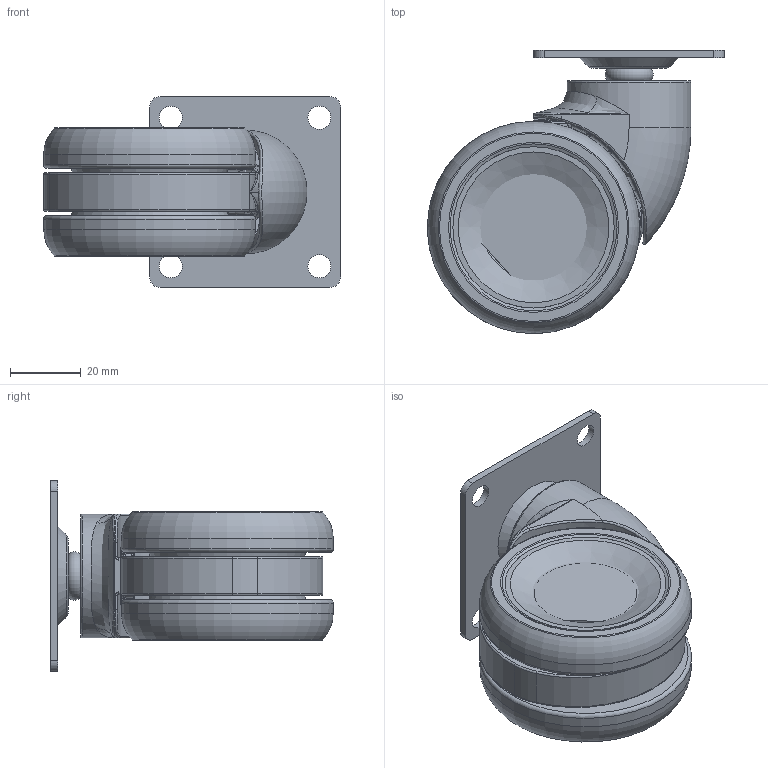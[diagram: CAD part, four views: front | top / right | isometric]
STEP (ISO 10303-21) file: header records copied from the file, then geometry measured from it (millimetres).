
FILE_DESCRIPTION (( 'STEP AP203' ), '1' );
FILE_NAME ('K09U35(プレート).STEP', '2025-04-11T02:17:39', ( '' ), ( '' ), 'SwSTEP 2.0', 'SolidWorks 2025', '' );
FILE_SCHEMA (( 'CONFIG_CONTROL_DESIGN' ));
Length unit declared in the file: millimetre
Products named in the file (5): プレート縦軸; 35カバー_2; TPU車輪; K09U35(プレート); 本体
Assembly tree (5 placements, depth 2):
  K09U35(プレート)
    本体
    プレート縦軸
    TPU車輪  x2
    35カバー_2
Bounding box: 84 x 80 x 54 mm (x, y, z)
Volume: 89475.8 mm3; surface area: 67817.4 mm2
Topology: 9 solids, 10 shells, 735 faces, 1995 edges, 1200 vertices
Faces by surface type: plane 273, cylinder 155, bspline 118, torus 98, cone 59, sphere 32
Full cylindrical faces by diameter (mm): 2.3 x45, 4.8 x1, 6.5 x4, 7.7 x1, 9 x2, 9.4 x2, 10 x1, 15.6 x1, 16 x2, 16.2 x1, 17 x1, 34 x2, 34.95 x1, 35 x2, 36 x4, 36.4 x4, 38.35 x3, 44.15 x3, 46 x2, 46.95 x1, 47 x1, 54.897 x4
Entity records: 24822 total; most frequent: CARTESIAN_POINT 10691, ORIENTED_EDGE 2806, DIRECTION 2655, EDGE_CURVE 1403, AXIS2_PLACEMENT_3D 1173, VERTEX_POINT 923, EDGE_LOOP 900, FACE_OUTER_BOUND 730
